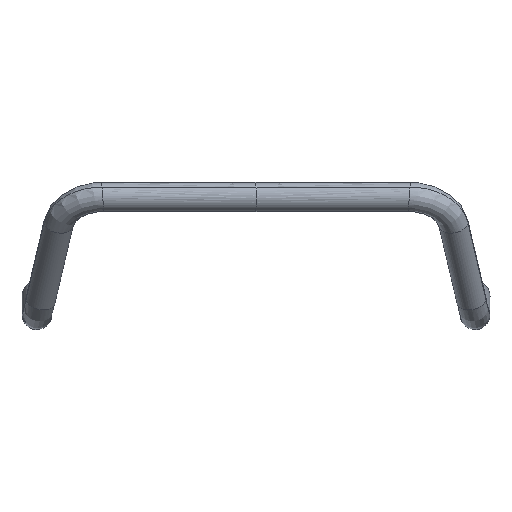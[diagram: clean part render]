
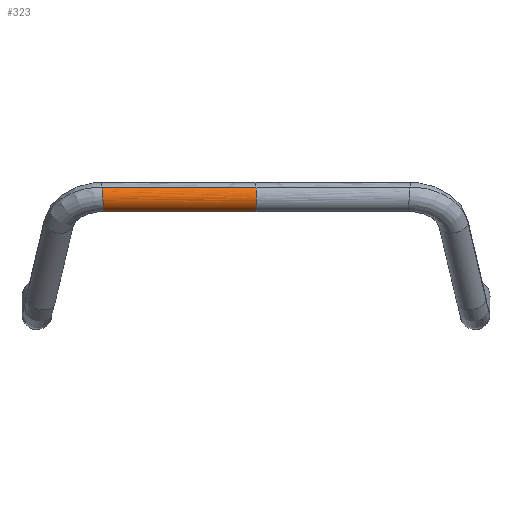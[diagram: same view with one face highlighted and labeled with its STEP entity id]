
A CAD part, left-side view. The second image highlights one B-rep face of the part: STEP entity #323.
In plain terms, the highlighted face is a extrusion surface.
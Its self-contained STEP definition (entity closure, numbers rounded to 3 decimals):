
#295=AXIS2_PLACEMENT_3D('Circle Axis2P3D',#293,#294,$) ;
#58=CARTESIAN_POINT('Vertex',(-506.561,-676.645,152.718)) ;
#84=CARTESIAN_POINT('Vertex',(-513.921,-676.645,159.487)) ;
#149=CARTESIAN_POINT('Control Point',(-513.921,-676.645,159.487)) ;
#150=CARTESIAN_POINT('Control Point',(-514.451,-676.713,158.911)) ;
#151=CARTESIAN_POINT('Control Point',(-514.867,-676.781,158.231)) ;
#152=CARTESIAN_POINT('Control Point',(-515.142,-676.846,157.476)) ;
#153=CARTESIAN_POINT('Control Point',(-515.381,-676.962,155.897)) ;
#154=CARTESIAN_POINT('Control Point',(-515.005,-677.04,154.343)) ;
#155=CARTESIAN_POINT('Control Point',(-514.665,-677.067,153.613)) ;
#156=CARTESIAN_POINT('Control Point',(-513.717,-677.094,152.323)) ;
#157=CARTESIAN_POINT('Control Point',(-512.353,-677.067,151.486)) ;
#158=CARTESIAN_POINT('Control Point',(-511.596,-677.04,151.208)) ;
#159=CARTESIAN_POINT('Control Point',(-510.016,-676.962,150.963)) ;
#160=CARTESIAN_POINT('Control Point',(-508.463,-676.846,151.333)) ;
#161=CARTESIAN_POINT('Control Point',(-507.734,-676.781,151.67)) ;
#162=CARTESIAN_POINT('Control Point',(-507.091,-676.713,152.142)) ;
#163=CARTESIAN_POINT('Control Point',(-506.561,-676.645,152.718)) ;
#240=CARTESIAN_POINT('Vertex',(-506.561,-728.998,152.718)) ;
#242=CARTESIAN_POINT('Vertex',(-513.921,-728.998,159.487)) ;
#245=CARTESIAN_POINT('Line Origine',(-506.561,-692.825,152.718)) ;
#250=CARTESIAN_POINT('Line Origine',(-513.921,-692.825,159.487)) ;
#293=CARTESIAN_POINT('Axis2P3D Location',(-510.241,-709.006,156.102)) ;
#301=CARTESIAN_POINT('Control Point',(-513.921,-728.998,159.487)) ;
#302=CARTESIAN_POINT('Control Point',(-514.713,-728.998,158.626)) ;
#303=CARTESIAN_POINT('Control Point',(-515.251,-728.998,157.532)) ;
#304=CARTESIAN_POINT('Control Point',(-515.443,-728.998,156.302)) ;
#305=CARTESIAN_POINT('Control Point',(-515.174,-728.998,154.489)) ;
#306=CARTESIAN_POINT('Control Point',(-514.202,-728.998,152.997)) ;
#307=CARTESIAN_POINT('Control Point',(-513.807,-728.998,152.551)) ;
#308=CARTESIAN_POINT('Control Point',(-512.898,-728.998,151.787)) ;
#309=CARTESIAN_POINT('Control Point',(-511.809,-728.998,151.316)) ;
#310=CARTESIAN_POINT('Control Point',(-511.233,-728.998,151.163)) ;
#311=CARTESIAN_POINT('Control Point',(-509.85,-728.998,151.006)) ;
#312=CARTESIAN_POINT('Control Point',(-508.483,-728.998,151.324)) ;
#313=CARTESIAN_POINT('Control Point',(-507.745,-728.998,151.662)) ;
#314=CARTESIAN_POINT('Control Point',(-507.095,-728.998,152.137)) ;
#315=CARTESIAN_POINT('Control Point',(-506.561,-728.998,152.718)) ;
#246=DIRECTION('Vector Direction',(0.,1.,0.)) ;
#251=DIRECTION('Vector Direction',(0.,1.,0.)) ;
#294=DIRECTION('Axis2P3D Direction',(0.059,-0.996,0.064)) ;
#297=DIRECTION('Vector Direction',(0.,1.,0.)) ;
#247=VECTOR('Line Direction',#246,1.) ;
#252=VECTOR('Line Direction',#251,1.) ;
#298=VECTOR('Extrusion Surface Vector',#297,1.) ;
#318=ORIENTED_EDGE('',*,*,#316,.F.) ;
#319=ORIENTED_EDGE('',*,*,#254,.T.) ;
#320=ORIENTED_EDGE('',*,*,#164,.T.) ;
#321=ORIENTED_EDGE('',*,*,#249,.F.) ;
#323=ADVANCED_FACE('Brep With Voids',(#322),#299,.F.) ;
#148=B_SPLINE_CURVE_WITH_KNOTS('',5,(#149,#150,#151,#152,#153,#154,#155,#156,#157,#158,#159,#160,#161,#162,#163),.UNSPECIFIED.,.F.,.U.,(6,3,3,3,6),(15.708,19.635,23.562,27.489,31.416),.UNSPECIFIED.) ;
#300=B_SPLINE_CURVE_WITH_KNOTS('',5,(#301,#302,#303,#304,#305,#306,#307,#308,#309,#310,#311,#312,#313,#314,#315),.UNSPECIFIED.,.F.,.U.,(6,3,3,3,6),(0.,8.304,12.457,16.61,22.213),.UNSPECIFIED.) ;
#296=CIRCLE('generated circle',#295,5.) ;
#164=EDGE_CURVE('',#85,#59,#148,.T.) ;
#249=EDGE_CURVE('',#241,#59,#248,.T.) ;
#254=EDGE_CURVE('',#243,#85,#253,.T.) ;
#316=EDGE_CURVE('',#243,#241,#300,.T.) ;
#317=EDGE_LOOP('',(#318,#319,#320,#321)) ;
#322=FACE_OUTER_BOUND('',#317,.T.) ;
#248=LINE('Line',#245,#247) ;
#253=LINE('Line',#250,#252) ;
#299=SURFACE_OF_LINEAR_EXTRUSION('generated tabulated cylinder',#296,#298) ;
#59=VERTEX_POINT('',#58) ;
#85=VERTEX_POINT('',#84) ;
#241=VERTEX_POINT('',#240) ;
#243=VERTEX_POINT('',#242) ;
